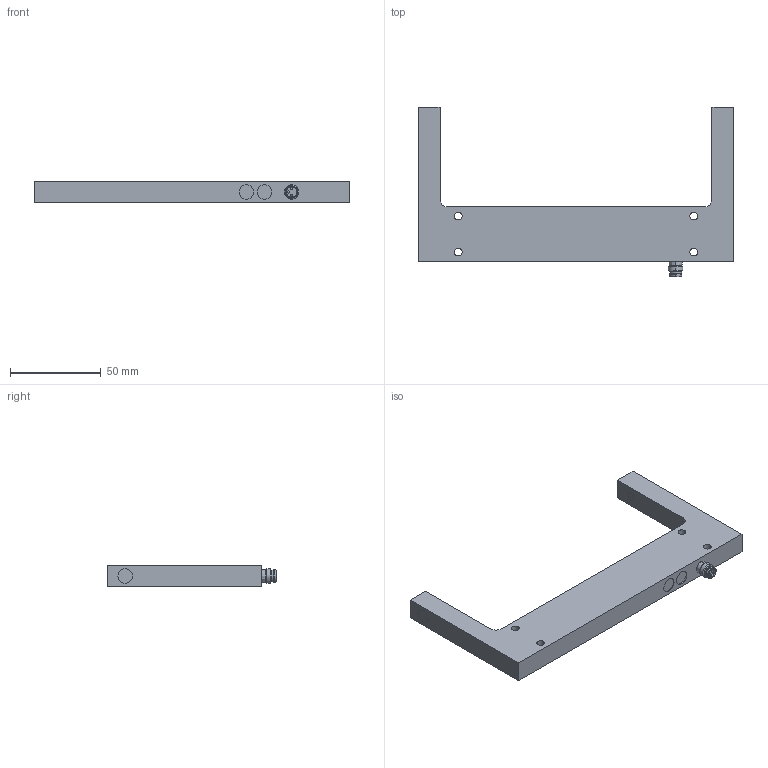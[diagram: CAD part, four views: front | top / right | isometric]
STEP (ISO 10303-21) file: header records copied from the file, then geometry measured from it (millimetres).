
FILE_DESCRIPTION(('STEP AP214'),'1');
FILE_NAME('F:/3D Zeichnungen/3D Modelle/tmp0.step','2021-12-01T10:28:41',(' '),(' '),'Spatial InterOp 3D',' ',' ');
FILE_SCHEMA(('automotive_design'));
Length unit declared in the file: millimetre
Products named in the file (1): osen19B4259Bo797
Bounding box: 174 x 93.7 x 12 mm (x, y, z)
Volume: 77984.5 mm3; surface area: 21563.1 mm2
Topology: 1 solids, 2 shells, 93 faces, 207 edges, 127 vertices
Faces by surface type: cylinder 38, plane 28, cone 16, torus 6, sphere 3, bspline 2
Entity records: 3815 total; most frequent: DIRECTION 492, CARTESIAN_POINT 482, ORIENTED_EDGE 402, EDGE_CURVE 201, AXIS2_PLACEMENT_3D 201, STYLED_ITEM 180, PRESENTATION_STYLE_ASSIGNMENT 180, COLOUR_RGB 180
